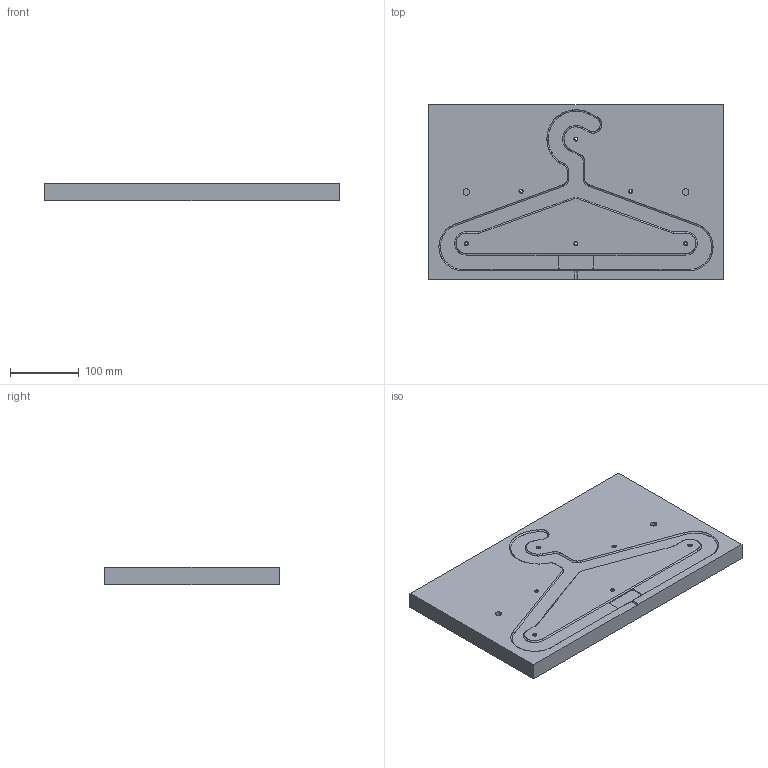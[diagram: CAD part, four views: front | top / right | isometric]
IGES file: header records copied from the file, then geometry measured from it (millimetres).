
Start section: SolidWorks IGES file using analytic representation for surfaces
Global section: file name: C:\Users\Andrés Garzón\Documents\Independiente\Plastico Guatavita\Diseños en plástico\Gancho de ropa\V3\Files\IGES\A with logo space.IGS; native system: SolidWorks 2018; preprocessor: SolidWorks 2018; author: Andrés Garzón; date: 231128.130352; units: millimetre
Bounding box: 430 x 255 x 25.4 mm (x, y, z)
Surface area: 261616.5 mm2 (no closed solid volume)
Topology: 0 solids, 0 shells, 318 faces, 5935 edges, 5935 vertices
Faces by surface type: revolution 268, bspline 50
